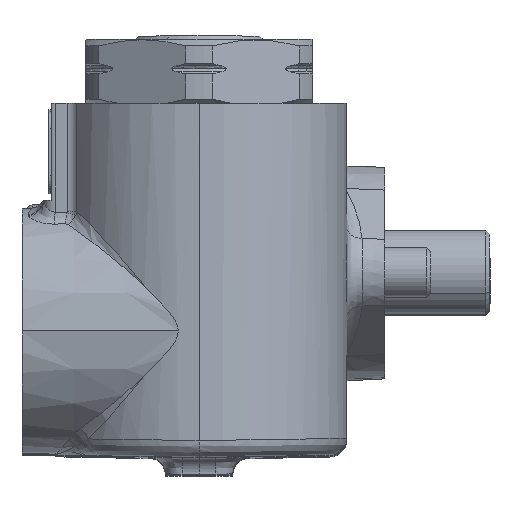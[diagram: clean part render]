
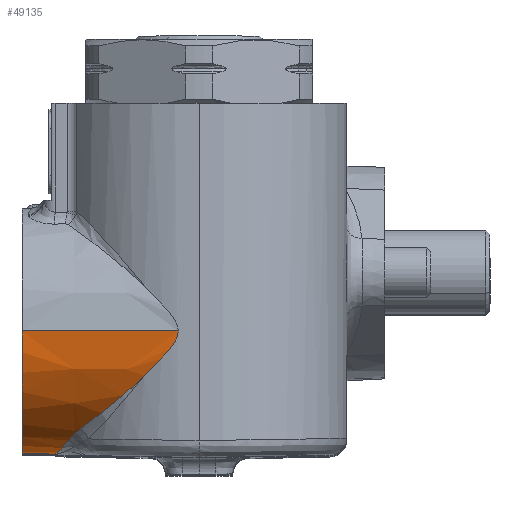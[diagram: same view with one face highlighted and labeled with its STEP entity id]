
A CAD part, top view. The second image highlights one B-rep face of the part: STEP entity #49135.
In plain terms, the highlighted conical face has half-angle 1 degrees and reference radius 14.5 mm.
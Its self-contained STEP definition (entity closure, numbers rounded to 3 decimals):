
#426 = CARTESIAN_POINT ( 'NONE',  ( 3.448, -7.576, 71.313 ) ) ;
#1382 = DIRECTION ( 'NONE',  ( 0., 0., 1. ) ) ;
#1691 = CARTESIAN_POINT ( 'NONE',  ( -3.048, -14.656, 69.076 ) ) ;
#2628 = VERTEX_POINT ( 'NONE', #21397 ) ;
#2699 = CARTESIAN_POINT ( 'NONE',  ( 3.519, -7.29, 71.323 ) ) ;
#3159 = AXIS2_PLACEMENT_3D ( 'NONE', #38768, #29970, #1382 ) ;
#3599 = CARTESIAN_POINT ( 'NONE',  ( -10.396, -21.028, 60.517 ) ) ;
#4524 = CARTESIAN_POINT ( 'NONE',  ( 3.225, -8.108, 71.279 ) ) ;
#4665 = CARTESIAN_POINT ( 'NONE',  ( -9.52, -19.989, 63.157 ) ) ;
#4950 = CARTESIAN_POINT ( 'NONE',  ( -8.055, -18.576, 65.432 ) ) ;
#5734 = CONICAL_SURFACE ( 'NONE', #3159, 14.5, 0.017 ) ;
#6014 = CARTESIAN_POINT ( 'NONE',  ( -0.474, -12.326, 70.259 ) ) ;
#7636 = CARTESIAN_POINT ( 'NONE',  ( -11.198, -21.566, 56.5 ) ) ;
#8612 = EDGE_CURVE ( 'NONE', #19243, #2628, #18496, .T. ) ;
#8961 = ORIENTED_EDGE ( 'NONE', *, *, #50573, .T. ) ;
#9001 = CARTESIAN_POINT ( 'NONE',  ( -8.672, -19.06, 64.76 ) ) ;
#9275 = CARTESIAN_POINT ( 'NONE',  ( -4.98, -16.236, 67.923 ) ) ;
#9307 = EDGE_CURVE ( 'NONE', #32241, #17890, #21670, .T. ) ;
#10462 = ORIENTED_EDGE ( 'NONE', *, *, #9307, .T. ) ;
#11532 = CARTESIAN_POINT ( 'NONE',  ( -11.103, -21.568, 57.088 ) ) ;
#11906 = VECTOR ( 'NONE', #51128, 1000. ) ;
#12341 = CARTESIAN_POINT ( 'NONE',  ( -17., -21.465, 56.5 ) ) ;
#13097 = CARTESIAN_POINT ( 'NONE',  ( -9.36, -19.768, 63.595 ) ) ;
#13369 = CARTESIAN_POINT ( 'NONE',  ( -7.469, -18.149, 66.002 ) ) ;
#13521 = ORIENTED_EDGE ( 'NONE', *, *, #17330, .F. ) ;
#13866 = CARTESIAN_POINT ( 'NONE',  ( -15., -7., 56.5 ) ) ;
#17330 = EDGE_CURVE ( 'NONE', #26440, #19243, #33956, .T. ) ;
#17890 = VERTEX_POINT ( 'NONE', #45179 ) ;
#18207 = CARTESIAN_POINT ( 'NONE',  ( -9.52, -19.989, 63.157 ) ) ;
#18325 = CARTESIAN_POINT ( 'NONE',  ( -1.107, -12.947, 70.006 ) ) ;
#18496 = B_SPLINE_CURVE_WITH_KNOTS ( 'NONE', 3,
 ( #44153, #2699, #426, #4524, #29866, #21185, #42182, #24988, #37571, #41107, #33978, #37833, #41641, #33150 ),
 .UNSPECIFIED., .F., .F.,
 ( 4, 2, 2, 2, 2, 2, 4 ),
 ( 0.023, 0.024, 0.025, 0.026, 0.026, 0.028, 0.03 ),
 .UNSPECIFIED. ) ;
#19243 = VERTEX_POINT ( 'NONE', #36444 ) ;
#20242 = CARTESIAN_POINT ( 'NONE',  ( -9.704, -20.245, 62.651 ) ) ;
#21185 = CARTESIAN_POINT ( 'NONE',  ( 2.76, -8.831, 71.198 ) ) ;
#21397 = CARTESIAN_POINT ( 'NONE',  ( -0.474, -12.326, 70.259 ) ) ;
#21670 = B_SPLINE_CURVE_WITH_KNOTS ( 'NONE', 3,
 ( #4665, #13097, #29733, #9001, #25649, #4950 ),
 .UNSPECIFIED., .F., .F.,
 ( 4, 2, 4 ),
 ( 0., 0.002, 0.003 ),
 .UNSPECIFIED. ) ;
#22158 = CARTESIAN_POINT ( 'NONE',  ( -1.754, -13.532, 69.72 ) ) ;
#23854 = B_SPLINE_CURVE_WITH_KNOTS ( 'NONE', 3,
 ( #47468, #13369, #35215, #43401, #9275, #51823, #1691, #22158, #18325, #6014 ),
 .UNSPECIFIED., .F., .F.,
 ( 4, 2, 2, 2, 4 ),
 ( 0., 0.003, 0.006, 0.008, 0.011 ),
 .UNSPECIFIED. ) ;
#24394 = EDGE_LOOP ( 'NONE', ( #13521, #45626, #36558, #47438, #10462, #8961, #53379 ) ) ;
#24988 = CARTESIAN_POINT ( 'NONE',  ( 2.228, -9.501, 71.09 ) ) ;
#25649 = CARTESIAN_POINT ( 'NONE',  ( -8.383, -18.815, 65.113 ) ) ;
#26062 = CARTESIAN_POINT ( 'NONE',  ( -11.198, -21.566, 56.5 ) ) ;
#26334 = CIRCLE ( 'NONE', #47241, 14.5 ) ;
#26440 = VERTEX_POINT ( 'NONE', #48435 ) ;
#29733 = CARTESIAN_POINT ( 'NONE',  ( -9.159, -19.535, 64.002 ) ) ;
#29866 = CARTESIAN_POINT ( 'NONE',  ( 3.08, -8.355, 71.255 ) ) ;
#29970 = DIRECTION ( 'NONE',  ( 1., 0., 0. ) ) ;
#30498 = DIRECTION ( 'NONE',  ( 1., 0., 0. ) ) ;
#31971 = CARTESIAN_POINT ( 'NONE',  ( -11.01, -21.534, 57.672 ) ) ;
#32241 = VERTEX_POINT ( 'NONE', #18207 ) ;
#32471 = CARTESIAN_POINT ( 'NONE',  ( -10.678, -21.297, 59.395 ) ) ;
#33150 = CARTESIAN_POINT ( 'NONE',  ( -0.474, -12.326, 70.259 ) ) ;
#33956 = LINE ( 'NONE', #37817, #11906 ) ;
#33978 = CARTESIAN_POINT ( 'NONE',  ( 1.093, -10.752, 70.803 ) ) ;
#35215 = CARTESIAN_POINT ( 'NONE',  ( -6.863, -17.695, 66.523 ) ) ;
#36366 = CARTESIAN_POINT ( 'NONE',  ( -10.236, -20.861, 61.068 ) ) ;
#36444 = CARTESIAN_POINT ( 'NONE',  ( 3.519, -7., 71.323 ) ) ;
#36558 = ORIENTED_EDGE ( 'NONE', *, *, #41624, .F. ) ;
#36879 = CARTESIAN_POINT ( 'NONE',  ( -9.52, -19.989, 63.157 ) ) ;
#37189 = DIRECTION ( 'NONE',  ( -1., 0.017, 0. ) ) ;
#37571 = CARTESIAN_POINT ( 'NONE',  ( 2.043, -9.715, 71.048 ) ) ;
#37603 = B_SPLINE_CURVE_WITH_KNOTS ( 'NONE', 3,
 ( #7636, #11532, #31971, #53193, #32471, #3599, #36366, #49658, #20242, #36879 ),
 .UNSPECIFIED., .F., .F.,
 ( 4, 2, 2, 2, 4 ),
 ( 0., 0.002, 0.004, 0.005, 0.007 ),
 .UNSPECIFIED. ) ;
#37817 = CARTESIAN_POINT ( 'NONE',  ( -15., -7., 71. ) ) ;
#37833 = CARTESIAN_POINT ( 'NONE',  ( 0.313, -11.549, 70.555 ) ) ;
#38768 = CARTESIAN_POINT ( 'NONE',  ( -15., -7., 56.5 ) ) ;
#39020 = DIRECTION ( 'NONE',  ( 0., 0., -1. ) ) ;
#40574 = EDGE_CURVE ( 'NONE', #26440, #43214, #26334, .T. ) ;
#41107 = CARTESIAN_POINT ( 'NONE',  ( 1.48, -10.346, 70.91 ) ) ;
#41624 = EDGE_CURVE ( 'NONE', #52152, #43214, #41801, .T. ) ;
#41641 = CARTESIAN_POINT ( 'NONE',  ( -0.08, -11.94, 70.415 ) ) ;
#41801 = LINE ( 'NONE', #12341, #44855 ) ;
#42182 = CARTESIAN_POINT ( 'NONE',  ( 2.586, -9.06, 71.165 ) ) ;
#43214 = VERTEX_POINT ( 'NONE', #50252 ) ;
#43401 = CARTESIAN_POINT ( 'NONE',  ( -5.619, -16.739, 67.483 ) ) ;
#43505 = EDGE_CURVE ( 'NONE', #52152, #32241, #37603, .T. ) ;
#44153 = CARTESIAN_POINT ( 'NONE',  ( 3.519, -7., 71.323 ) ) ;
#44855 = VECTOR ( 'NONE', #37189, 1000. ) ;
#45179 = CARTESIAN_POINT ( 'NONE',  ( -8.055, -18.576, 65.432 ) ) ;
#45626 = ORIENTED_EDGE ( 'NONE', *, *, #40574, .T. ) ;
#47241 = AXIS2_PLACEMENT_3D ( 'NONE', #13866, #30498, #39020 ) ;
#47438 = ORIENTED_EDGE ( 'NONE', *, *, #43505, .T. ) ;
#47468 = CARTESIAN_POINT ( 'NONE',  ( -8.055, -18.576, 65.432 ) ) ;
#48435 = CARTESIAN_POINT ( 'NONE',  ( -15., -7., 71. ) ) ;
#49135 = ADVANCED_FACE ( 'NONE', ( #50171 ), #5734, .T. ) ;
#49658 = CARTESIAN_POINT ( 'NONE',  ( -9.89, -20.47, 62.134 ) ) ;
#50171 = FACE_OUTER_BOUND ( 'NONE', #24394, .T. ) ;
#50252 = CARTESIAN_POINT ( 'NONE',  ( -15., -21.5, 56.5 ) ) ;
#50573 = EDGE_CURVE ( 'NONE', #17890, #2628, #23854, .T. ) ;
#51128 = DIRECTION ( 'NONE',  ( 1., 0., 0.017 ) ) ;
#51823 = CARTESIAN_POINT ( 'NONE',  ( -3.695, -15.195, 68.718 ) ) ;
#52152 = VERTEX_POINT ( 'NONE', #26062 ) ;
#53193 = CARTESIAN_POINT ( 'NONE',  ( -10.798, -21.398, 58.826 ) ) ;
#53379 = ORIENTED_EDGE ( 'NONE', *, *, #8612, .F. ) ;
